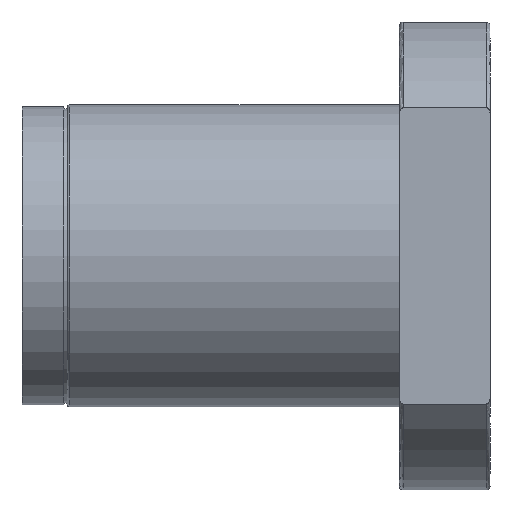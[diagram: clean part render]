
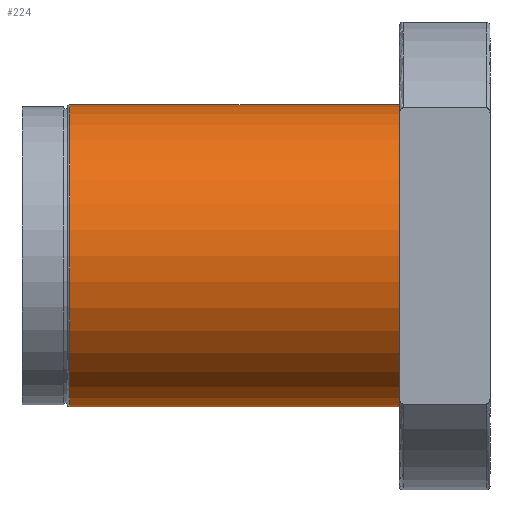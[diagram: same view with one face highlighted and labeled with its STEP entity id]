
A CAD part, front view. The second image highlights one B-rep face of the part: STEP entity #224.
In plain terms, the highlighted cylindrical face has radius 20 mm (diameter 40 mm), a partial arc.
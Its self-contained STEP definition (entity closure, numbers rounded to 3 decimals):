
#42 = CARTESIAN_POINT ( 'NONE',  ( -74.7, 0., 20. ) ) ;
#70 = CARTESIAN_POINT ( 'NONE',  ( -31., 0., 0. ) ) ;
#224 = ADVANCED_FACE ( 'NONE', ( #2277 ), #1032, .T. ) ;
#319 = VERTEX_POINT ( 'NONE', #870 ) ;
#323 = CARTESIAN_POINT ( 'NONE',  ( -74.7, 0., -20. ) ) ;
#384 = CARTESIAN_POINT ( 'NONE',  ( -74.7, 0., -20. ) ) ;
#420 = ORIENTED_EDGE ( 'NONE', *, *, #2373, .F. ) ;
#447 = CARTESIAN_POINT ( 'NONE',  ( -74.7, 0., 0. ) ) ;
#452 = VECTOR ( 'NONE', #1327, 1000. ) ;
#597 = EDGE_CURVE ( 'NONE', #1419, #319, #891, .T. ) ;
#631 = DIRECTION ( 'NONE',  ( 1., 0., 0. ) ) ;
#649 = DIRECTION ( 'NONE',  ( 1., 0., 0. ) ) ;
#732 = DIRECTION ( 'NONE',  ( 1., 0., 0. ) ) ;
#791 = DIRECTION ( 'NONE',  ( 1., 0., 0. ) ) ;
#799 = CIRCLE ( 'NONE', #842, 20. ) ;
#842 = AXIS2_PLACEMENT_3D ( 'NONE', #857, #649, #1591 ) ;
#857 = CARTESIAN_POINT ( 'NONE',  ( -74.7, 0., 0. ) ) ;
#870 = CARTESIAN_POINT ( 'NONE',  ( -31., 0., -20. ) ) ;
#891 = LINE ( 'NONE', #323, #1852 ) ;
#931 = ORIENTED_EDGE ( 'NONE', *, *, #2340, .F. ) ;
#1032 = CYLINDRICAL_SURFACE ( 'NONE', #1686, 20. ) ;
#1061 = CIRCLE ( 'NONE', #2228, 20. ) ;
#1196 = DIRECTION ( 'NONE',  ( 0., 0., -1. ) ) ;
#1276 = EDGE_CURVE ( 'NONE', #1373, #1419, #799, .T. ) ;
#1327 = DIRECTION ( 'NONE',  ( 1., 0., 0. ) ) ;
#1373 = VERTEX_POINT ( 'NONE', #1667 ) ;
#1419 = VERTEX_POINT ( 'NONE', #384 ) ;
#1591 = DIRECTION ( 'NONE',  ( 0., 0., -1. ) ) ;
#1602 = CARTESIAN_POINT ( 'NONE',  ( -31., 0., 20. ) ) ;
#1667 = CARTESIAN_POINT ( 'NONE',  ( -74.7, 0., 20. ) ) ;
#1686 = AXIS2_PLACEMENT_3D ( 'NONE', #447, #631, #1196 ) ;
#1739 = VERTEX_POINT ( 'NONE', #1602 ) ;
#1747 = EDGE_LOOP ( 'NONE', ( #931, #2017, #1910, #420 ) ) ;
#1852 = VECTOR ( 'NONE', #732, 1000. ) ;
#1910 = ORIENTED_EDGE ( 'NONE', *, *, #597, .T. ) ;
#2017 = ORIENTED_EDGE ( 'NONE', *, *, #1276, .T. ) ;
#2071 = LINE ( 'NONE', #42, #452 ) ;
#2228 = AXIS2_PLACEMENT_3D ( 'NONE', #70, #791, #2275 ) ;
#2275 = DIRECTION ( 'NONE',  ( 0., 0., 1. ) ) ;
#2277 = FACE_OUTER_BOUND ( 'NONE', #1747, .T. ) ;
#2340 = EDGE_CURVE ( 'NONE', #1373, #1739, #2071, .T. ) ;
#2373 = EDGE_CURVE ( 'NONE', #1739, #319, #1061, .T. ) ;
